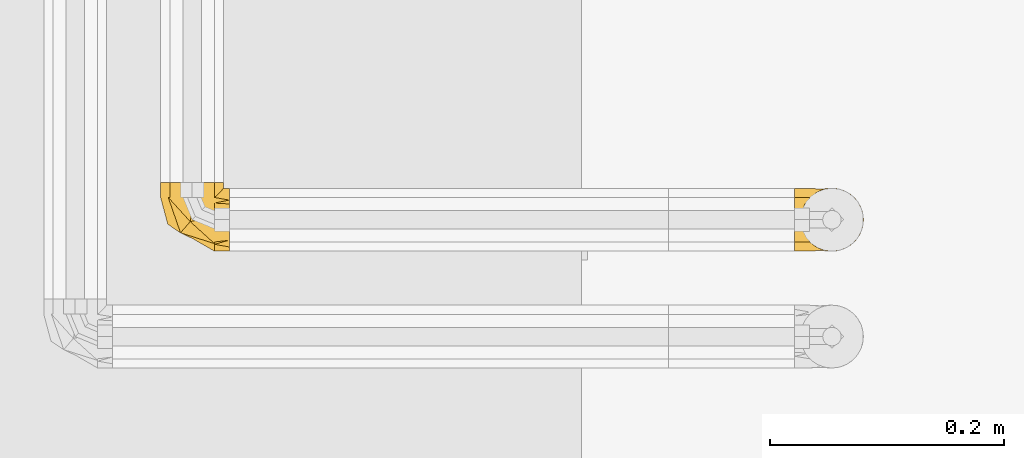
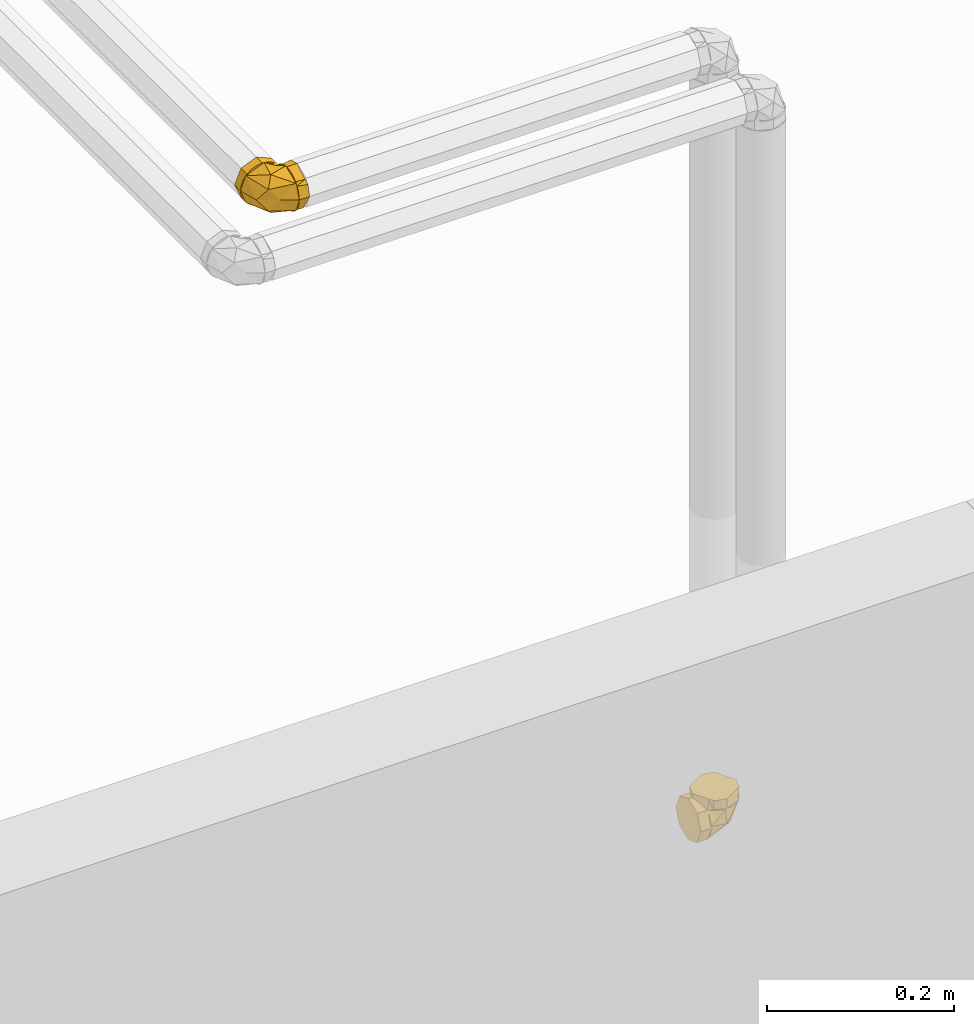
# One storey, part 296 of 652: 2 coverings.
"""IFC2X3 building model written with IfcOpenShell, lengths in millimetres."""

import ifcopenshell
import ifcopenshell.guid

model = None  # the IFC model being written
_history = None  # IfcOwnerHistory: only IFC2X3 demands one
_inside = {}  # id of a spatial element -> (the spatial element, [elements in it])
_under = {}  # id of a project, library or spatial element -> (it, [spatial elements below it])
_declared = {}  # id of a project -> (the project, [libraries it declares])
_typed = {}  # id of a type object -> (the type object, [elements of that type])
_made_of = {}  # id of a material, layer set ... -> (it, [elements and type objects made of it])


def new_model(schema):
    """Start an empty IFC model of exactly this schema.

    Asked for "IFC4X3", IfcOpenShell would pick the latest addendum, in which some entities
    have other attributes; the version numbers below select the first issue.
    IFC2X3 requires an IfcOwnerHistory on every rooted entity: one is made here for all.
    """
    global model, _history
    if schema == "IFC4X3":
        model = ifcopenshell.file(schema_version=(4, 3, 0, 0))
    else:
        model = ifcopenshell.file(schema=schema)
    _inside.clear()
    _under.clear()
    _declared.clear()
    _typed.clear()
    _made_of.clear()
    _history = None
    if model.schema == "IFC2X3":
        org = make("IfcOrganization", Name="unknown")
        user = make(
            "IfcPersonAndOrganization",
            ThePerson=make("IfcPerson", FamilyName="unknown"),
            TheOrganization=org,
        )
        app = make(
            "IfcApplication",
            ApplicationDeveloper=org,
            Version="unknown",
            ApplicationFullName="unknown",
            ApplicationIdentifier="unknown",
        )
        _history = make(
            "IfcOwnerHistory",
            OwningUser=user,
            OwningApplication=app,
            ChangeAction="ADDED",
            CreationDate=0,
        )
    return model


def make(cls, **values):
    """One entity of the class cls with the attributes given. An attribute that is None is left unset."""
    return model.create_entity(
        cls, **{name: value for name, value in values.items() if value is not None}
    )


def entity(cls, *values):
    """Any entity or typed value of the class cls, its attributes in the order of the schema. None: left unset."""
    e = model.create_entity(cls)
    for i, value in enumerate(values):
        if value is not None:
            e[i] = value
    return e


def rooted(cls, **values):
    """An entity with a GlobalId (a new one), such as an element, a storey or a relation."""
    return make(cls, GlobalId=ifcopenshell.guid.new(), OwnerHistory=_history, **values)


def si_unit(unit_type, name, prefix=None):
    """IfcSIUnit, for example si_unit("LENGTHUNIT", "METRE", prefix="MILLI")."""
    return make("IfcSIUnit", UnitType=unit_type, Prefix=prefix, Name=name)


def converted_unit(unit_type, name, factor, base, dimensions=None, offset=None):
    """IfcConversionBasedUnit, such as the inch: factor (a typed value) times the base unit."""
    return make(
        "IfcConversionBasedUnit"
        if offset is None
        else "IfcConversionBasedUnitWithOffset",
        ConversionOffset=offset,
        Dimensions=None
        if dimensions is None
        else entity("IfcDimensionalExponents", *dimensions),
        UnitType=unit_type,
        Name=name,
        ConversionFactor=make(
            "IfcMeasureWithUnit", ValueComponent=factor, UnitComponent=base
        ),
    )


def assignment(units):
    """IfcUnitAssignment: the units of a project."""
    return None if units is None else make("IfcUnitAssignment", Units=units)


def point(xyz):
    """IfcCartesianPoint."""
    return None if xyz is None else make("IfcCartesianPoint", Coordinates=xyz)


def direction(xyz):
    """IfcDirection."""
    return None if xyz is None else make("IfcDirection", DirectionRatios=xyz)


def frame(location, z_axis=None, x_axis=None):
    """IfcAxis2Placement3D, a coordinate frame: its origin and axes. An axis left out is left unset."""
    return make(
        "IfcAxis2Placement3D",
        Location=point(location),
        Axis=direction(z_axis),
        RefDirection=direction(x_axis),
    )


def origin():
    """The frame at (0, 0, 0) with its axes left unset."""
    return frame((0.0, 0.0, 0.0))


def place(relative_to, where):
    """IfcLocalPlacement: puts the frame where relative to a parent placement (None: the world)."""
    return make(
        "IfcLocalPlacement", PlacementRelTo=relative_to, RelativePlacement=where
    )


def context(
    kind, dimensions, precision=None, world=None, true_north=None, identifier=None
):
    """IfcGeometricRepresentationContext, for example the 3D "Model" context."""
    return make(
        "IfcGeometricRepresentationContext",
        ContextIdentifier=identifier,
        ContextType=kind,
        CoordinateSpaceDimension=dimensions,
        Precision=precision,
        WorldCoordinateSystem=world,
        TrueNorth=true_north,
    )


def subcontext(parent, identifier, kind, view, scale=None):
    """IfcGeometricRepresentationSubContext, for example "Body" below "Model"."""
    return make(
        "IfcGeometricRepresentationSubContext",
        ContextIdentifier=identifier,
        ContextType=kind,
        ParentContext=parent,
        TargetScale=scale,
        TargetView=view,
    )


def project(units=None, contexts=None):
    """IfcProject with its units and contexts."""
    return rooted(
        "IfcProject",
        Name="project",
        RepresentationContexts=contexts,
        UnitsInContext=assignment(units),
    )


def spatial(cls, under=None, at=None, **own):
    """A site, building, storey or space (cls), placed at a placement, below another one or the project."""
    s = rooted(cls, ObjectPlacement=at, **own)
    if under is not None:
        _under.setdefault(under.id(), (under, []))[1].append(s)
    return s


def faces_of(points, faces, orient=None, outer=None):
    """IfcFace entities. A face is a list of loops; a loop is a list of indices into points, from 0.

    orient and outer hold one flag for each loop. By default every Orientation is true, the
    first loop of a face is its IfcFaceOuterBound and the others are IfcFaceBound.
    """
    made = []
    for i, loops in enumerate(faces):
        bounds = []
        for j, loop in enumerate(loops):
            is_outer = j == 0 if outer is None else outer[i][j]
            bounds.append(
                make(
                    "IfcFaceOuterBound" if is_outer else "IfcFaceBound",
                    Bound=make("IfcPolyLoop", Polygon=[points[k] for k in loop]),
                    Orientation=True if orient is None else orient[i][j],
                )
            )
        made.append(make("IfcFace", Bounds=bounds))
    return made


def face_set(faces, orient=None, outer=None):
    """The faces of one IfcConnectedFaceSet. surface_model builds it on its shared points."""
    return ("IfcConnectedFaceSet", faces, orient, outer)


def surface_model(cls, points, shells):
    """IfcFaceBasedSurfaceModel or IfcShellBasedSurfaceModel (cls): surfaces that need not close."""
    shared = [point(p) for p in points]
    made = [make(c, CfsFaces=faces_of(shared, fs, o, b)) for c, fs, o, b in shells]
    if cls == "IfcFaceBasedSurfaceModel":
        return make(cls, FbsmFaces=made)
    return make(cls, SbsmBoundary=made)


def shape(context_of_items, identifier, shape_type, items):
    """IfcShapeRepresentation: the items that make up one representation, for example the "Body"."""
    return make(
        "IfcShapeRepresentation",
        ContextOfItems=context_of_items,
        RepresentationIdentifier=identifier,
        RepresentationType=shape_type,
        Items=items,
    )


def material(Name=None, Category=None):
    """IfcMaterial."""
    return make("IfcMaterial", Name=Name, Category=Category)


def made_of(thing, what):
    """Note that an element or type object is made of a material, layer set ...; save() writes the relation."""
    if what is not None:
        _made_of.setdefault(what.id(), (what, []))[1].append(thing)
    return thing


def type_object(cls, material=None, **own):
    """A type object (cls), such as IfcWallType, which elements share."""
    return made_of(rooted(cls, **own), material)


def element(
    cls,
    number,
    at=None,
    inside=None,
    cuts=None,
    type_object=None,
    material=None,
    context=None,
    identifier="Body",
    shape_type=None,
    held_by="IfcProductDefinitionShape",
    body=None,
    shapes=None,
    **own,
):
    """One element of the class cls, such as IfcWall. Its Tag is "e" and its number.

    at: its placement. inside: the storey or other place that contains it. cuts: it is an
    opening in that element (IfcRelVoidsElement). A single representation is given by context,
    identifier, shape_type and body (its items); several are given by shapes. held_by: the class
    of the entity that holds the representations. save() writes the other relations.
    """
    e = rooted(cls, Tag="e%d" % number, ObjectPlacement=at, **own)
    if body is not None:
        shapes = [shape(context, identifier, shape_type, body)]
    if shapes is not None:
        e.Representation = make(held_by, Representations=shapes)
    if inside is not None:
        _inside.setdefault(inside.id(), (inside, []))[1].append(e)
    if cuts is not None:
        rooted(
            "IfcRelVoidsElement", RelatingBuildingElement=cuts, RelatedOpeningElement=e
        )
    if type_object is not None:
        _typed.setdefault(type_object.id(), (type_object, []))[1].append(e)
    return made_of(e, material)


def aggregate(whole, parts):
    """IfcRelAggregates: a whole, such as a stair, and the parts it consists of."""
    return rooted("IfcRelAggregates", RelatingObject=whole, RelatedObjects=parts)


def save(model, path):
    """Write the relations noted so far, then the file.

    IfcRelAggregates (storeys below a building ...), IfcRelContainedInSpatialStructure (elements
    in a storey), IfcRelDefinesByType, IfcRelAssociatesMaterial and IfcRelDeclares: one each for
    every whole, place, type object, material and project.
    """
    for whole, parts in _under.values():
        aggregate(whole, parts)
    for where, things in _inside.values():
        rooted(
            "IfcRelContainedInSpatialStructure",
            RelatedElements=things,
            RelatingStructure=where,
        )
    for kind, things in _typed.values():
        rooted("IfcRelDefinesByType", RelatedObjects=things, RelatingType=kind)
    for what, things in _made_of.values():
        rooted("IfcRelAssociatesMaterial", RelatedObjects=things, RelatingMaterial=what)
    for by, libraries in _declared.values():
        rooted("IfcRelDeclares", RelatingContext=by, RelatedDefinitions=libraries)
    model.write(path)


model = new_model("IFC2X3")

# Units and contexts
model_context = context("Model", 3, precision=0.01, world=frame((0.0, 0.0, 308426.39999999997)), true_north=direction((6.123233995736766e-17, 1.0)))
plan_context = context("Plan", 3, precision=0.01, world=frame((0.0, 0.0, 308426.39999999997)), true_north=direction((6.123233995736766e-17, 1.0)))
body_context = subcontext(model_context, "Body", "Model", "MODEL_VIEW")
ifc_project = project(units=[si_unit("LENGTHUNIT", "METRE", prefix="MILLI"), si_unit("AREAUNIT", "SQUARE_METRE"), si_unit("VOLUMEUNIT", "CUBIC_METRE"), converted_unit("PLANEANGLEUNIT", "DEGREE", entity("IfcPlaneAngleMeasure", 0.017453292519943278), si_unit("PLANEANGLEUNIT", "RADIAN"), dimensions=[0, 0, 0, 0, 0, 0, 0])], contexts=[model_context, plan_context])

# Site, building, storey
site_placement = place(None, origin())
site = spatial("IfcSite", under=ifc_project, at=site_placement, Name="Default", CompositionType="ELEMENT")
building_placement = place(site_placement, origin())
building = spatial("IfcBuilding", under=site, at=building_placement, CompositionType="ELEMENT")
storey_placement = place(building_placement, frame((0.0, 0.0, 1730.6999999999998)))
storey = spatial("IfcBuildingStorey", under=building, at=storey_placement, Name="EG_Produktion_FFB", CompositionType="ELEMENT", Elevation=1730.6999999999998)

# Coverings
ifc_material = material(Name="Dämmung - Armaflex-Schlauch")
covering_type = type_object("IfcCoveringType", Name="Rohrdämmung außen:Armaflex-Schlauch", PredefinedType="INSULATION")
covering_1_placement = place(storey_placement, frame((40702.37843313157, 36553.50378550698, 2671.4672277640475)))
element("IfcCovering", 1, at=covering_1_placement, inside=storey, type_object=covering_type, material=ifc_material, Name="Rohrdämmung außen:Armaflex-Schlauch", ObjectType="Rohrdämmung außen:Armaflex-Schlauch", PredefinedType="INSULATION", context=body_context, shape_type="SurfaceModel", body=[
    surface_model("IfcFaceBasedSurfaceModel", [(12.766250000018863, 47.40912251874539, 47.75027223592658), (12.766250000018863, 51.38658262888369, 42.79223424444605), (12.766250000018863, 54.0915642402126, 37.040242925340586), (12.766250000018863, 55.37345654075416, 30.81456370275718), (12.766250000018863, 55.16088498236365, 24.46183649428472), (12.766250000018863, 53.46568534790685, 18.33577512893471), (12.766250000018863, 50.38224474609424, 12.777472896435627), (12.766250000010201, 46.08224622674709, 8.096410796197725), (12.766250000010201, 40.80510963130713, 4.553225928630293), (12.766250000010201, 34.84466092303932, 2.3451994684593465), (12.766250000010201, 28.532772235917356, 1.5952722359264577), (12.766250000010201, 22.220883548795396, 2.3451994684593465), (12.766250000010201, 16.26043484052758, 4.553225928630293), (12.766250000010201, 10.983298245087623, 8.096410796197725), (12.766250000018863, 6.683299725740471, 12.777472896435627), (12.766250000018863, 3.5998591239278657, 18.33577512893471), (12.766250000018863, 1.9046594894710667, 24.46183649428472), (12.766250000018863, 1.6920879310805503, 30.81456370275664), (12.766250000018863, 2.973980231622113, 37.04024292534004), (12.766250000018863, 5.678961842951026, 42.79223424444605), (12.766250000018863, 9.65642195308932, 47.75027223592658), (17.72428799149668, 5.678961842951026, 47.75027223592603), (23.47627931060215, 2.973980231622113, 47.75027223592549), (29.70195853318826, 1.6920879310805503, 47.75027223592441), (36.05468574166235, 1.9046594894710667, 47.75027223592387), (42.18074710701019, 3.5998591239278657, 47.750272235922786), (47.73904933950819, 6.683299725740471, 47.750272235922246), (52.42011143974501, 10.983298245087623, 47.750272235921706), (55.96329630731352, 16.26043484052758, 47.750272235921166), (58.17132276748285, 22.220883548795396, 47.750272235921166), (58.921250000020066, 28.532772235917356, 47.750272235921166), (58.17132276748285, 34.84466092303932, 47.750272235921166), (55.96329630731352, 40.80510963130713, 47.750272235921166), (52.42011143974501, 46.08224622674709, 47.750272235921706), (47.73904933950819, 50.38224474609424, 47.750272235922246), (42.18074710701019, 53.46568534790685, 47.750272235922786), (36.05468574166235, 55.16088498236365, 47.75027223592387), (29.70195853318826, 55.37345654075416, 47.75027223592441), (23.47627931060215, 54.0915642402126, 47.75027223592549), (17.72428799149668, 51.38658262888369, 47.75027223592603), (22.70784616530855, 54.78959217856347, 39.06982362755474), (35.84192819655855, 28.53305531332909, 7.77900102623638), (12.764267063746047, 50.72704945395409, 19.455613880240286), (33.567648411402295, 53.46641712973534, 26.951086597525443), (43.1856659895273, 42.781022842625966, 18.67484758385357), (48.3760468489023, 28.53305531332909, 29.486687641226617), (41.06021432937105, 50.72704945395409, 47.75039842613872), (43.1856659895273, 14.285087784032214, 18.67484758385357), (33.567648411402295, 3.599693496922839, 26.951086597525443), (22.70784616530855, 2.276518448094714, 39.06982362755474), (41.06021432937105, 6.336735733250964, 47.75039842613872), (12.764267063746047, 6.336735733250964, 19.455613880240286), (0.0, 28.532772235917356, 1.5952722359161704), (0.0, 23.77085000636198, 3.567725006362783), (0.0, 19.008927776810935, 5.540177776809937), (0.0, 14.247005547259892, 7.51263054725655), (0.0, 9.485083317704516, 9.485083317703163), (0.0, 7.512630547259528, 14.247005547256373), (0.0, 5.540177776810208, 19.008927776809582), (0.0, 3.567725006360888, 23.770850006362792), (0.0, 1.5952722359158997, 28.532772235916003), (0.0, 3.5677250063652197, 33.29469446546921), (0.0, 5.540177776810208, 38.05661669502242), (0.0, 7.512630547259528, 42.818538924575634), (0.0, 9.485083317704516, 47.5804611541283), (0.0, 14.247005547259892, 49.552913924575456), (0.0, 19.008927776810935, 51.525366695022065), (0.0, 23.77085000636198, 53.49781946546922), (0.0, 28.532772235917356, 55.470272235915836), (0.0, 33.2946944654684, 53.49781946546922), (0.0, 38.05661669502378, 51.525366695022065), (0.0, 42.81853892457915, 49.552913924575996), (0.0, 47.5804611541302, 47.58046115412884), (0.0, 49.552913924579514, 42.818538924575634), (0.0, 51.5253666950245, 38.05661669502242), (0.0, 53.49781946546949, 33.29469446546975), (0.0, 55.47027223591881, 28.532772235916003), (0.0, 53.49781946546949, 23.770850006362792), (0.0, 51.5253666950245, 19.008927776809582), (0.0, 49.552913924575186, 14.247005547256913), (0.0, 47.5804611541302, 9.485083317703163), (0.0, 42.81853892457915, 7.512630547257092), (0.0, 38.05661669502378, 5.540177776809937), (0.0, 33.2946944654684, 3.567725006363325), (12.766250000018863, 28.532772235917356, 1.5952722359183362), (12.766250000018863, 33.2946944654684, 3.567725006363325), (12.766250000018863, 38.05661669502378, 5.540177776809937), (12.766250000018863, 42.81853892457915, 7.512630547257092), (12.766250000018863, 47.5804611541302, 9.485083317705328), (12.766250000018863, 49.96980627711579, 15.253472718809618), (12.766250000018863, 52.35915140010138, 21.021862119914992), (12.766250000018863, 55.47027223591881, 28.532772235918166), (12.766250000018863, 53.49781946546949, 33.29469446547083), (12.766250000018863, 51.5253666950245, 38.05661669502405), (12.766250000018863, 49.552913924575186, 42.818538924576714), (12.766250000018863, 47.5804611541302, 47.58046115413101), (12.766250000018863, 41.812071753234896, 49.96980627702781), (12.766250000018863, 36.04368235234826, 52.359151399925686), (12.766250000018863, 28.532772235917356, 55.470272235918), (12.766250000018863, 23.77085000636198, 53.49781946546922), (12.766250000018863, 19.008927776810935, 51.52536669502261), (12.766250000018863, 14.24700554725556, 49.552913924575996), (12.766250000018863, 9.485083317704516, 47.58046115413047), (12.766250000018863, 7.095738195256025, 41.81207175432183), (12.766250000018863, 4.706393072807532, 36.04368235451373), (12.766250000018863, 1.5952722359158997, 28.532772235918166), (12.766250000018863, 3.567725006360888, 23.77085000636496), (12.766250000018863, 5.540177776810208, 19.008927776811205), (12.766250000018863, 7.512630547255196, 14.247005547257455), (12.766250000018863, 9.485083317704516, 9.485083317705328), (12.766250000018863, 15.253472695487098, 7.095738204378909), (12.766250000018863, 21.021862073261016, 4.706393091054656), (58.92125000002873, 28.532772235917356, 60.516522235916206), (55.55406250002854, 34.36491206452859, 60.5165222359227), (52.186875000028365, 40.197051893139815, 60.51652223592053), (48.81968750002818, 46.02919172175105, 60.516522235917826), (45.452500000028, 51.86133155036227, 60.516522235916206), (38.718125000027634, 53.66580189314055, 60.516522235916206), (31.98375000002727, 55.47027223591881, 60.516522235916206), (26.151610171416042, 52.10308473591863, 60.51652223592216), (20.319470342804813, 48.73589723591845, 60.51652223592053), (14.487330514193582, 45.368709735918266, 60.516522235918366), (8.655190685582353, 42.00152223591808, 60.516522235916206), (6.850720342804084, 35.26714723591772, 60.516522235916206), (5.046250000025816, 28.532772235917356, 60.516522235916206), (8.413437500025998, 22.700632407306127, 60.5165222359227), (11.78062500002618, 16.868492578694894, 60.51652223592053), (15.147812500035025, 11.036352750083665, 60.516522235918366), (18.515000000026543, 5.204212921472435, 60.516522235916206), (25.24937500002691, 3.3997425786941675, 60.516522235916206), (31.98375000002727, 1.5952722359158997, 60.516522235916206), (37.815889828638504, 4.962459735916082, 60.5165222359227), (43.64802965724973, 8.329647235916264, 60.51652223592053), (49.48016948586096, 11.696834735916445, 60.516522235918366), (55.312309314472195, 15.064022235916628, 60.516522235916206), (57.11677965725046, 21.79839723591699, 60.516522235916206), (58.92125000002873, 28.532772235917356, 47.75027223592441), (56.94879722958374, 23.770850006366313, 47.75027223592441), (54.97634445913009, 19.008927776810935, 47.75027223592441), (53.0038916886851, 14.24700554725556, 47.75027223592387), (51.03143891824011, 9.485083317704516, 47.75027223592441), (46.26951668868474, 7.512630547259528, 47.75027223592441), (41.50759445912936, 5.540177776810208, 47.75027223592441), (36.745672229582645, 3.567725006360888, 47.75027223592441), (31.98375000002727, 1.5952722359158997, 47.75027223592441), (27.22182777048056, 3.567725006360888, 47.75027223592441), (22.459905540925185, 5.540177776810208, 47.75027223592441), (17.697983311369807, 7.512630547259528, 47.75027223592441), (12.936061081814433, 9.485083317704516, 47.75027223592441), (10.963608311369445, 14.247005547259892, 47.75027223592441), (8.991155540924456, 19.008927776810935, 47.75027223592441), (7.018702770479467, 23.77085000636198, 47.75027223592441), (5.046250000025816, 28.532772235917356, 47.75027223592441), (7.018702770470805, 33.29469446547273, 47.75027223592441), (8.991155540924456, 38.05661669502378, 47.75027223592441), (10.963608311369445, 42.81853892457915, 47.75027223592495), (12.936061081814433, 47.5804611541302, 47.75027223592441), (17.697983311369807, 49.552913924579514, 47.75027223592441), (22.459905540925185, 51.5253666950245, 47.75027223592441), (27.221827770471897, 53.49781946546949, 47.75027223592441), (31.98375000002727, 55.47027223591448, 47.75027223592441), (36.745672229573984, 53.49781946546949, 47.75027223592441), (41.50759445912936, 51.5253666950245, 47.75027223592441), (46.26951668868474, 49.552913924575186, 47.75027223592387), (51.03143891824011, 47.5804611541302, 47.75027223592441), (53.0038916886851, 42.81853892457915, 47.75027223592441), (54.97634445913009, 38.05661669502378, 47.75027223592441), (56.94879722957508, 33.2946944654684, 47.75027223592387)], [face_set([[[0, 1, 2, 3, 4, 5, 6, 7, 8, 9, 10, 11, 12, 13, 14, 15, 16, 17, 18, 19]], [[20, 21, 22, 23, 24, 25, 26, 27, 28, 29, 30, 31, 32, 33, 34, 35, 36, 37, 38, 39]], [[0, 40, 3]], [[10, 7, 41]], [[42, 3, 43]], [[40, 43, 3]], [[37, 40, 0]], [[7, 43, 44]], [[45, 41, 44]], [[7, 44, 41]], [[33, 30, 45]], [[45, 44, 33]], [[43, 33, 44]], [[43, 37, 46]], [[43, 7, 42]], [[37, 43, 40]], [[46, 33, 43]], [[13, 10, 41]], [[27, 47, 45]], [[45, 30, 27]], [[48, 47, 27]], [[49, 48, 23]], [[48, 50, 23]], [[45, 47, 41]], [[20, 49, 23]], [[47, 48, 13]], [[17, 49, 20]], [[41, 47, 13]], [[48, 17, 51]], [[48, 27, 50]], [[17, 48, 49]], [[51, 13, 48]]]), face_set([[[52, 53, 54, 55, 56, 57, 58, 59, 60, 61, 62, 63, 64, 65, 66, 67, 68, 69, 70, 71, 72, 73, 74, 75, 76, 77, 78, 79, 80, 81, 82, 83]], [[84, 85, 86, 87, 88, 89, 90, 91, 92, 93, 94, 95, 96, 97, 98, 99, 100, 101, 102, 103, 104, 105, 106, 107, 108, 109, 110, 111]], [[111, 110, 109, 56, 55, 54, 53, 52, 84]], [[56, 109, 108, 107, 106, 105, 60, 59, 58, 57]], [[104, 103, 102, 64, 63, 62, 61, 60, 105]], [[64, 102, 101, 100, 99, 98, 68, 67, 66, 65]], [[97, 96, 95, 72, 71, 70, 69, 68, 98]], [[72, 95, 94, 93, 92, 91, 76, 75, 74, 73]], [[90, 89, 88, 80, 79, 78, 77, 76, 91]], [[80, 88, 87, 86, 85, 84, 52, 83, 82, 81]]]), face_set([[[112, 113, 114, 115, 116, 117, 118, 119, 120, 121, 122, 123, 124, 125, 126, 127, 128, 129, 130, 131, 132, 133, 134, 135]], [[136, 137, 138, 139, 140, 141, 142, 143, 144, 145, 146, 147, 148, 149, 150, 151, 152, 153, 154, 155, 156, 157, 158, 159, 160, 161, 162, 163, 164, 165, 166, 167]], [[155, 121, 156]], [[118, 159, 119]], [[159, 158, 119]], [[123, 154, 153]], [[153, 152, 124]], [[121, 155, 122]], [[120, 158, 157]], [[118, 160, 159]], [[158, 120, 119]], [[124, 123, 153]], [[157, 156, 121]], [[155, 154, 122]], [[123, 122, 154]], [[120, 157, 121]], [[163, 115, 164]], [[112, 167, 113]], [[167, 166, 113]], [[117, 162, 161]], [[161, 160, 118]], [[115, 163, 116]], [[114, 166, 165]], [[112, 136, 167]], [[166, 114, 113]], [[118, 117, 161]], [[165, 164, 115]], [[163, 162, 116]], [[117, 116, 162]], [[114, 165, 115]], [[139, 133, 140]], [[130, 143, 131]], [[143, 142, 131]], [[135, 138, 137]], [[137, 136, 112]], [[133, 139, 134]], [[132, 142, 141]], [[130, 144, 143]], [[142, 132, 131]], [[112, 135, 137]], [[141, 140, 133]], [[139, 138, 134]], [[135, 134, 138]], [[132, 141, 133]], [[147, 127, 148]], [[124, 151, 125]], [[151, 150, 125]], [[129, 146, 145]], [[145, 144, 130]], [[127, 147, 128]], [[126, 150, 149]], [[124, 152, 151]], [[150, 126, 125]], [[130, 129, 145]], [[149, 148, 127]], [[147, 146, 128]], [[129, 128, 146]], [[126, 149, 127]]])]),
])
covering_2_placement = place(storey_placement, frame((40158.02729193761, 36553.503785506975, 3671.467227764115)))
element("IfcCovering", 2, at=covering_2_placement, inside=storey, type_object=covering_type, material=ifc_material, Name="Rohrdämmung außen:Armaflex-Schlauch", ObjectType="Rohrdämmung außen:Armaflex-Schlauch", PredefinedType="INSULATION", context=body_context, shape_type="SurfaceModel", body=[
    surface_model("IfcFaceBasedSurfaceModel", [(47.750272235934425, 47.75027223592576, 9.656421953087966), (42.79223424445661, 47.75027223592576, 51.38658262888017), (37.040242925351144, 47.75027223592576, 54.09156424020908), (30.81456370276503, 47.75027223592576, 55.373456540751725), (24.461836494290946, 47.7502722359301, 55.16088498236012), (18.3357751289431, 47.7502722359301, 53.46568534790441), (12.777472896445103, 47.7502722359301, 50.38224474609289), (8.096410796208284, 47.7502722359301, 46.08224622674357), (4.553225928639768, 47.7502722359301, 40.80510963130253), (2.345199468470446, 47.7502722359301, 34.844660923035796), (1.5952722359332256, 47.7502722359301, 28.53277223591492), (2.345199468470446, 47.7502722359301, 22.220883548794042), (4.553225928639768, 47.7502722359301, 16.26043484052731), (8.096410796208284, 47.7502722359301, 10.983298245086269), (12.777472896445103, 47.7502722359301, 6.683299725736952), (18.3357751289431, 47.7502722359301, 3.599859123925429), (24.461836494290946, 47.7502722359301, 1.904659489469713), (30.81456370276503, 47.75027223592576, 1.6920879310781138), (37.040242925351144, 47.75027223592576, 2.9739802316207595), (42.79223424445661, 47.75027223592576, 5.678961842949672), (47.750272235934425, 47.75027223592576, 47.409122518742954), (47.750272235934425, 42.79223424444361, 5.678961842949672), (47.750272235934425, 37.04024292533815, 2.9739802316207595), (47.750272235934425, 30.81456370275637, 1.6920879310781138), (47.750272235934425, 24.461836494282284, 1.904659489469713), (47.750272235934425, 18.33577512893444, 3.599859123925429), (47.750272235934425, 12.77747289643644, 6.683299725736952), (47.75027223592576, 8.09641079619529, 10.983298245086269), (47.75027223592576, 4.553225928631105, 16.26043484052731), (47.75027223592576, 2.3451994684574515, 22.220883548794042), (47.75027223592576, 1.5952722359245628, 28.53277223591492), (47.75027223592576, 2.3451994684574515, 34.844660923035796), (47.75027223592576, 4.553225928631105, 40.80510963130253), (47.75027223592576, 8.09641079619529, 46.08224622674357), (47.750272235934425, 12.77747289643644, 50.38224474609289), (47.750272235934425, 18.33577512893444, 53.46568534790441), (47.750272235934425, 24.461836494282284, 55.16088498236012), (47.750272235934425, 30.81456370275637, 55.373456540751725), (47.750272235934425, 37.04024292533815, 54.09156424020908), (47.750272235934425, 42.79223424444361, 51.38658262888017), (39.06795952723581, 37.806907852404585, 2.2761468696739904), (7.776846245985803, 24.672825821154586, 28.532683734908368), (19.455203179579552, 47.75048695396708, 6.337526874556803), (26.952419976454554, 26.951756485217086, 3.599903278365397), (18.673855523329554, 17.33141346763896, 14.285297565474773), (29.487148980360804, 12.138707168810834, 28.532683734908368), (47.75115044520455, 19.454539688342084, 6.337526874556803), (18.673855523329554, 17.33141346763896, 42.780069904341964), (39.06795952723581, 37.806907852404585, 54.78922060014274), (26.952419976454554, 26.951756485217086, 53.46546419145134), (47.75115044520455, 19.454539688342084, 50.72784059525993), (19.455203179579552, 47.75048695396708, 50.72784059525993), (1.5952722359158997, 60.51652223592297, 28.532772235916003), (3.567725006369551, 60.516522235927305, 33.29469446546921), (5.54017777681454, 60.516522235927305, 38.05661669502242), (7.512630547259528, 60.51652223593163, 42.818538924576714), (9.485083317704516, 60.51652223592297, 47.58046115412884), (14.247005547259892, 60.516522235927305, 49.552913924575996), (19.008927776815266, 60.516522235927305, 51.525366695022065), (23.770850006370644, 60.516522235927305, 53.49781946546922), (28.532772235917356, 60.516522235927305, 55.470272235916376), (33.29469446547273, 60.516522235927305, 53.49781946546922), (38.05661669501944, 60.516522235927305, 51.525366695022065), (42.81853892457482, 60.516522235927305, 49.552913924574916), (47.5804611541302, 60.51652223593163, 47.58046115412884), (49.552913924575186, 60.51652223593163, 42.818538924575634), (51.525366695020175, 60.51652223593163, 38.05661669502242), (53.497819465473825, 60.51652223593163, 33.29469446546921), (55.47027223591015, 60.51652223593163, 28.532772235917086), (53.497819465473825, 60.51652223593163, 23.770850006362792), (51.525366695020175, 60.51652223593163, 19.008927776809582), (49.552913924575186, 60.51652223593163, 14.247005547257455), (47.5804611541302, 60.51652223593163, 9.485083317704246), (42.81853892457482, 60.516522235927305, 7.512630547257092), (38.05661669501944, 60.516522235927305, 5.540177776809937), (33.29469446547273, 60.51652223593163, 3.567725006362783), (28.532772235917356, 60.516522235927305, 1.595272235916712), (23.770850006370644, 60.516522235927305, 3.567725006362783), (19.008927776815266, 60.516522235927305, 5.540177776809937), (14.247005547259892, 60.516522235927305, 7.512630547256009), (9.485083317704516, 60.51652223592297, 9.485083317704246), (7.512630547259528, 60.516522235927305, 14.247005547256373), (5.54017777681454, 60.516522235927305, 19.008927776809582), (3.567725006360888, 60.51652223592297, 23.770850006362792), (1.5952722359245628, 47.750272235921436, 28.532772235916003), (3.567725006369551, 47.75027223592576, 23.770850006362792), (5.54017777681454, 47.750272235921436, 19.0089277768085), (7.512630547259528, 47.750272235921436, 14.24700554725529), (9.48508331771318, 47.750272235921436, 9.485083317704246), (15.253472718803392, 47.750272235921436, 7.095738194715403), (21.02186211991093, 47.750272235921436, 4.7063930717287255), (28.532772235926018, 47.75027223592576, 1.595272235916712), (33.29469446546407, 47.7502722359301, 3.567725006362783), (38.05661669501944, 47.75027223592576, 5.540177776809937), (42.81853892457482, 47.75027223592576, 7.512630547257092), (47.58046115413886, 47.7502722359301, 9.485083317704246), (49.96980627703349, 47.750272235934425, 15.25347271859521), (52.35915139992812, 47.75027223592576, 21.021862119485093), (55.47027223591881, 47.7502722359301, 28.532772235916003), (53.49781946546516, 47.75027223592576, 33.29469446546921), (51.525366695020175, 47.7502722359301, 38.05661669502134), (49.552913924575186, 47.75027223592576, 42.81853892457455), (47.58046115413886, 47.7502722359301, 47.58046115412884), (41.8120717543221, 47.75027223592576, 49.96980627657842), (36.043682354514, 47.75027223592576, 52.35915139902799), (28.532772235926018, 47.75027223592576, 55.470272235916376), (23.77085000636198, 47.75027223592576, 53.49781946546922), (19.008927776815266, 47.75027223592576, 51.52536669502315), (14.247005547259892, 47.750272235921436, 49.552913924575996), (9.48508331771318, 47.750272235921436, 47.58046115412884), (7.095738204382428, 47.750272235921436, 41.81207177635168), (4.706393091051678, 47.750272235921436, 36.043682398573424), (60.51652223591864, 1.5952722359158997, 28.532772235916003), (60.516522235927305, 4.962459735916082, 22.700632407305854), (60.516522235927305, 8.329647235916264, 16.868492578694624), (60.51652223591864, 11.696834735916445, 11.036352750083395), (60.51652223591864, 15.064022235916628, 5.204212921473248), (60.51652223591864, 21.79839723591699, 3.399742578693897), (60.51652223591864, 28.532772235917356, 1.595272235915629), (60.516522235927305, 34.36491206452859, 4.962459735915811), (60.516522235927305, 40.197051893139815, 8.329647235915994), (60.51652223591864, 46.02919172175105, 11.696834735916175), (60.51652223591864, 51.86133155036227, 15.064022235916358), (60.51652223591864, 53.66580189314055, 21.79839723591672), (60.51652223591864, 55.47027223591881, 28.532772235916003), (60.516522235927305, 52.10308473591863, 34.36491206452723), (60.516522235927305, 48.73589723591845, 40.19705189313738), (60.51652223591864, 45.368709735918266, 46.02919172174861), (60.51652223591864, 42.00152223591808, 51.86133155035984), (60.51652223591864, 35.26714723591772, 53.66580189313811), (60.51652223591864, 28.532772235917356, 55.470272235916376), (60.516522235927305, 22.700632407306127, 52.10308473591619), (60.516522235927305, 16.868492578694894, 48.73589723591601), (60.51652223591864, 11.036352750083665, 45.36870973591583), (60.51652223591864, 5.204212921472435, 42.00152223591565), (60.51652223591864, 3.3997425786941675, 35.26714723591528), (47.75027223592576, 33.29469446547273, 53.49781946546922), (47.75027223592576, 38.05661669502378, 51.525366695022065), (47.75027223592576, 42.81853892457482, 49.552913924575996), (47.75027223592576, 47.5804611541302, 47.58046115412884), (47.75027223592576, 49.552913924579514, 42.818538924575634), (47.75027223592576, 51.5253666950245, 38.05661669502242), (47.75027223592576, 53.497819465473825, 33.29469446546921), (47.75027223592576, 55.47027223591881, 28.532772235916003), (47.75027223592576, 53.49781946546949, 23.770850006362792), (47.75027223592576, 51.5253666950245, 19.008927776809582), (47.75027223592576, 49.552913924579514, 14.247005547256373), (47.75027223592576, 47.5804611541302, 9.485083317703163), (47.75027223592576, 42.81853892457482, 7.512630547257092), (47.75027223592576, 38.05661669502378, 5.540177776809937), (47.75027223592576, 33.29469446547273, 3.567725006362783), (47.75027223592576, 28.532772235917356, 1.595272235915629), (47.75027223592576, 23.77085000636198, 3.567725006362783), (47.75027223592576, 19.008927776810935, 5.540177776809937), (47.75027223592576, 14.247005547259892, 7.512630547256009), (47.75027223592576, 9.485083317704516, 9.485083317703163), (47.75027223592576, 7.512630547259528, 14.247005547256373), (47.75027223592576, 5.540177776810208, 19.008927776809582), (47.75027223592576, 3.567725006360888, 23.77085000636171), (47.75027223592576, 1.5952722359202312, 28.532772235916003), (47.75027223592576, 3.5677250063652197, 33.29469446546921), (47.75027223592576, 5.540177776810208, 38.05661669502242), (47.75027223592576, 7.512630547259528, 42.81853892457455), (47.75027223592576, 9.485083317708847, 47.58046115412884), (47.75027223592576, 14.24700554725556, 49.552913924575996), (47.75027223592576, 19.008927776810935, 51.525366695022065), (47.75027223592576, 23.77085000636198, 53.49781946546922), (47.75027223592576, 28.532772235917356, 55.470272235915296)], [face_set([[[0, 1, 2, 3, 4, 5, 6, 7, 8, 9, 10, 11, 12, 13, 14, 15, 16, 17, 18, 19]], [[20, 21, 22, 23, 24, 25, 26, 27, 28, 29, 30, 31, 32, 33, 34, 35, 36, 37, 38, 39]], [[0, 40, 17]], [[10, 13, 41]], [[42, 17, 43, 13]], [[40, 43, 17]], [[23, 40, 0]], [[13, 43, 44]], [[45, 41, 44]], [[13, 44, 41]], [[27, 30, 45]], [[45, 44, 27]], [[43, 27, 44]], [[43, 23, 46]], [[23, 43, 40]], [[46, 27, 43]], [[7, 10, 41]], [[33, 47, 45]], [[45, 30, 33]], [[48, 49, 37]], [[49, 33, 50]], [[3, 49, 48]], [[45, 47, 41]], [[20, 48, 37]], [[47, 49, 7]], [[3, 48, 20]], [[41, 47, 7]], [[49, 3, 51, 7]], [[33, 49, 47]], [[50, 37, 49]]]), face_set([[[52, 53, 54, 55, 56, 57, 58, 59, 60, 61, 62, 63, 64, 65, 66, 67, 68, 69, 70, 71, 72, 73, 74, 75, 76, 77, 78, 79, 80, 81, 82, 83]], [[84, 85, 86, 87, 88, 89, 90, 91, 92, 93, 94, 95, 96, 97, 98, 99, 100, 101, 102, 103, 104, 105, 106, 107, 108, 109, 110, 111]], [[111, 110, 109, 56, 55, 54, 53, 52, 84]], [[56, 109, 108, 107, 106, 105, 60, 59, 58, 57]], [[104, 103, 102, 64, 63, 62, 61, 60, 105]], [[64, 102, 101, 100, 99, 98, 68, 67, 66, 65]], [[97, 96, 95, 72, 71, 70, 69, 68, 98]], [[72, 95, 94, 93, 92, 91, 76, 75, 74, 73]], [[90, 89, 88, 80, 79, 78, 77, 76, 91]], [[80, 88, 87, 86, 85, 84, 52, 83, 82, 81]]]), face_set([[[112, 113, 114, 115, 116, 117, 118, 119, 120, 121, 122, 123, 124, 125, 126, 127, 128, 129, 130, 131, 132, 133, 134, 135]], [[136, 137, 138, 139, 140, 141, 142, 143, 144, 145, 146, 147, 148, 149, 150, 151, 152, 153, 154, 155, 156, 157, 158, 159, 160, 161, 162, 163, 164, 165, 166, 167]], [[146, 121, 147]], [[118, 150, 119]], [[150, 149, 119]], [[123, 145, 144]], [[144, 143, 124]], [[121, 146, 122]], [[120, 149, 148]], [[118, 151, 150]], [[149, 120, 119]], [[124, 123, 144]], [[148, 147, 121]], [[146, 145, 122]], [[123, 122, 145]], [[120, 148, 121]], [[154, 115, 155]], [[112, 158, 113]], [[158, 157, 113]], [[117, 153, 152]], [[152, 151, 118]], [[115, 154, 116]], [[114, 157, 156]], [[112, 159, 158]], [[157, 114, 113]], [[118, 117, 152]], [[156, 155, 115]], [[154, 153, 116]], [[117, 116, 153]], [[114, 156, 115]], [[162, 133, 163]], [[130, 166, 131]], [[166, 165, 131]], [[135, 161, 160]], [[160, 159, 112]], [[133, 162, 134]], [[132, 165, 164]], [[130, 167, 166]], [[165, 132, 131]], [[112, 135, 160]], [[164, 163, 133]], [[162, 161, 134]], [[135, 134, 161]], [[132, 164, 133]], [[138, 127, 139]], [[124, 142, 125]], [[142, 141, 125]], [[129, 137, 136]], [[136, 167, 130]], [[127, 138, 128]], [[126, 141, 140]], [[124, 143, 142]], [[141, 126, 125]], [[130, 129, 136]], [[140, 139, 127]], [[138, 137, 128]], [[129, 128, 137]], [[126, 140, 127]]])]),
])

save(model, "model.ifc")
